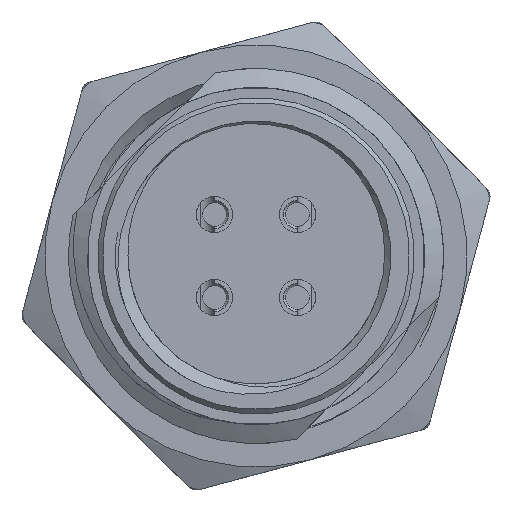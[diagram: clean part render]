
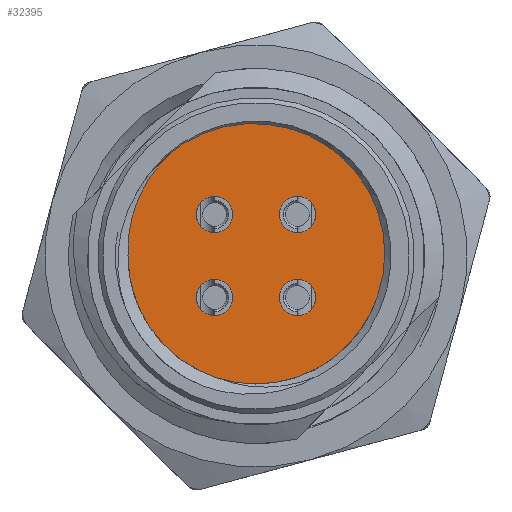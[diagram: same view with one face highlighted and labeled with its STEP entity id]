
A CAD part, left-side view. The second image highlights one B-rep face of the part: STEP entity #32395.
In plain terms, the highlighted planar face has unit normal (-1, 0, 0).
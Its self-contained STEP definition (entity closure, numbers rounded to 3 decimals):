
#10492=CARTESIAN_POINT('',(-19.5,2.63,5.126));
#10493=CARTESIAN_POINT('',(-19.5,2.716,5.076));
#10494=CARTESIAN_POINT('',(-19.5,2.886,4.973));
#10495=CARTESIAN_POINT('',(-19.5,3.131,4.805));
#10496=CARTESIAN_POINT('',(-19.5,3.367,4.625));
#10497=CARTESIAN_POINT('',(-19.5,3.593,4.433));
#10498=CARTESIAN_POINT('',(-19.5,3.808,4.231));
#10499=CARTESIAN_POINT('',(-19.5,4.012,4.018));
#10500=CARTESIAN_POINT('',(-19.5,4.204,3.795));
#10501=CARTESIAN_POINT('',(-19.5,4.385,3.562));
#10502=CARTESIAN_POINT('',(-19.5,4.552,3.321));
#10503=CARTESIAN_POINT('',(-19.5,4.706,3.073));
#10504=CARTESIAN_POINT('',(-19.5,4.847,2.817));
#10505=CARTESIAN_POINT('',(-19.5,4.975,2.554));
#10506=CARTESIAN_POINT('',(-19.5,5.088,2.286));
#10507=CARTESIAN_POINT('',(-19.5,5.186,2.013));
#10508=CARTESIAN_POINT('',(-19.5,5.271,1.735));
#10509=CARTESIAN_POINT('',(-19.5,5.34,1.454));
#10510=CARTESIAN_POINT('',(-19.5,5.395,1.171));
#10511=CARTESIAN_POINT('',(-19.5,5.434,0.885));
#10512=CARTESIAN_POINT('',(-19.5,5.459,0.598));
#10513=CARTESIAN_POINT('',(-19.5,5.468,0.311));
#10514=CARTESIAN_POINT('',(-19.5,5.464,0.12));
#10515=CARTESIAN_POINT('',(-19.5,5.46,0.025));
#10846=CARTESIAN_POINT('',(-19.5,-1.77,1.77));
#10847=DIRECTION('',(-1.,0.,0.));
#10848=DIRECTION('',(0.,1.,0.));
#10849=AXIS2_PLACEMENT_3D('',#10846,#10847,#10848);
#10895=CARTESIAN_POINT('',(-19.5,-1.77,1.77));
#10896=DIRECTION('',(-1.,0.,0.));
#10897=DIRECTION('',(0.,-1.,0.));
#10898=AXIS2_PLACEMENT_3D('',#10895,#10896,#10897);
#11055=CARTESIAN_POINT('',(-19.5,-1.77,-1.77));
#11056=DIRECTION('',(-1.,0.,0.));
#11057=DIRECTION('',(0.,1.,0.));
#11058=AXIS2_PLACEMENT_3D('',#11055,#11056,#11057);
#11104=CARTESIAN_POINT('',(-19.5,-1.77,-1.77));
#11105=DIRECTION('',(-1.,0.,0.));
#11106=DIRECTION('',(0.,-1.,0.));
#11107=AXIS2_PLACEMENT_3D('',#11104,#11105,#11106);
#11264=CARTESIAN_POINT('',(-19.5,1.77,-1.77));
#11265=DIRECTION('',(-1.,0.,0.));
#11266=DIRECTION('',(0.,-1.,0.));
#11267=AXIS2_PLACEMENT_3D('',#11264,#11265,#11266);
#11313=CARTESIAN_POINT('',(-19.5,1.77,-1.77));
#11314=DIRECTION('',(-1.,0.,0.));
#11315=DIRECTION('',(0.,1.,0.));
#11316=AXIS2_PLACEMENT_3D('',#11313,#11314,#11315);
#11473=CARTESIAN_POINT('',(-19.5,1.77,1.77));
#11474=DIRECTION('',(-1.,0.,0.));
#11475=DIRECTION('',(0.,-1.,0.));
#11476=AXIS2_PLACEMENT_3D('',#11473,#11474,#11475);
#11522=CARTESIAN_POINT('',(-19.5,1.77,1.77));
#11523=DIRECTION('',(-1.,0.,0.));
#11524=DIRECTION('',(0.,1.,0.));
#11525=AXIS2_PLACEMENT_3D('',#11522,#11523,#11524);
#11563=CARTESIAN_POINT('',(-19.5,0.,0.));
#11564=DIRECTION('',(-1.,0.,0.));
#11565=DIRECTION('',(0.,-0.89,-0.457));
#11566=AXIS2_PLACEMENT_3D('',#11563,#11564,#11565);
#11855=CARTESIAN_POINT('',(-19.5,-0.025,-5.46));
#11856=CARTESIAN_POINT('',(-19.5,-0.12,-5.464));
#11857=CARTESIAN_POINT('',(-19.5,-0.311,-5.468));
#11858=CARTESIAN_POINT('',(-19.5,-0.598,-5.459));
#11859=CARTESIAN_POINT('',(-19.5,-0.885,-5.434));
#11860=CARTESIAN_POINT('',(-19.5,-1.171,-5.395));
#11861=CARTESIAN_POINT('',(-19.5,-1.454,-5.34));
#11862=CARTESIAN_POINT('',(-19.5,-1.735,-5.271));
#11863=CARTESIAN_POINT('',(-19.5,-2.013,-5.186));
#11864=CARTESIAN_POINT('',(-19.5,-2.286,-5.088));
#11865=CARTESIAN_POINT('',(-19.5,-2.554,-4.975));
#11866=CARTESIAN_POINT('',(-19.5,-2.817,-4.847));
#11867=CARTESIAN_POINT('',(-19.5,-3.073,-4.706));
#11868=CARTESIAN_POINT('',(-19.5,-3.322,-4.552));
#11869=CARTESIAN_POINT('',(-19.5,-3.562,-4.385));
#11870=CARTESIAN_POINT('',(-19.5,-3.795,-4.204));
#11871=CARTESIAN_POINT('',(-19.5,-4.018,-4.012));
#11872=CARTESIAN_POINT('',(-19.5,-4.231,-3.808));
#11873=CARTESIAN_POINT('',(-19.5,-4.434,-3.593));
#11874=CARTESIAN_POINT('',(-19.5,-4.625,-3.367));
#11875=CARTESIAN_POINT('',(-19.5,-4.805,-3.131));
#11876=CARTESIAN_POINT('',(-19.5,-4.973,-2.886));
#11877=CARTESIAN_POINT('',(-19.5,-5.076,-2.716));
#11878=CARTESIAN_POINT('',(-19.5,-5.126,-2.63));
#14323=CARTESIAN_POINT('',(-19.5,0.,0.));
#14324=DIRECTION('',(-1.,0.,0.));
#14325=DIRECTION('',(0.,1.,0.005));
#14326=AXIS2_PLACEMENT_3D('',#14323,#14324,#14325);
#21060=VERTEX_POINT('',#10492);
#21061=VERTEX_POINT('',#10515);
#21066=VERTEX_POINT('',#11855);
#21067=VERTEX_POINT('',#11878);
#21091=CARTESIAN_POINT('',(-19.5,2.545,1.77));
#21092=CARTESIAN_POINT('',(-19.5,0.995,1.77));
#21093=VERTEX_POINT('',#21091);
#21094=VERTEX_POINT('',#21092);
#21095=CARTESIAN_POINT('',(-19.5,2.545,-1.77));
#21096=CARTESIAN_POINT('',(-19.5,0.995,-1.77));
#21097=VERTEX_POINT('',#21095);
#21098=VERTEX_POINT('',#21096);
#21099=CARTESIAN_POINT('',(-19.5,-2.545,-1.77));
#21100=CARTESIAN_POINT('',(-19.5,-0.995,-1.77));
#21101=VERTEX_POINT('',#21099);
#21102=VERTEX_POINT('',#21100);
#21103=CARTESIAN_POINT('',(-19.5,-2.545,1.77));
#21104=CARTESIAN_POINT('',(-19.5,-0.995,1.77));
#21105=VERTEX_POINT('',#21103);
#21106=VERTEX_POINT('',#21104);
#32357=CARTESIAN_POINT('',(-19.5,0.,0.));
#32358=DIRECTION('',(-1.,0.,0.));
#32359=DIRECTION('',(0.,1.,0.));
#32360=AXIS2_PLACEMENT_3D('',#32357,#32358,#32359);
#32361=PLANE('',#32360);
#32362=ORIENTED_EDGE('',*,*,#32281,.F.);
#32364=ORIENTED_EDGE('',*,*,#32363,.F.);
#32366=ORIENTED_EDGE('',*,*,#32365,.F.);
#32368=ORIENTED_EDGE('',*,*,#32367,.F.);
#32369=EDGE_LOOP('',(#32362,#32364,#32366,#32368));
#32370=FACE_OUTER_BOUND('',#32369,.F.);
#32372=ORIENTED_EDGE('',*,*,#32371,.T.);
#32374=ORIENTED_EDGE('',*,*,#32373,.T.);
#32375=EDGE_LOOP('',(#32372,#32374));
#32376=FACE_BOUND('',#32375,.F.);
#32378=ORIENTED_EDGE('',*,*,#32377,.T.);
#32380=ORIENTED_EDGE('',*,*,#32379,.T.);
#32381=EDGE_LOOP('',(#32378,#32380));
#32382=FACE_BOUND('',#32381,.F.);
#32384=ORIENTED_EDGE('',*,*,#32383,.T.);
#32386=ORIENTED_EDGE('',*,*,#32385,.T.);
#32387=EDGE_LOOP('',(#32384,#32386));
#32388=FACE_BOUND('',#32387,.F.);
#32390=ORIENTED_EDGE('',*,*,#32389,.T.);
#32392=ORIENTED_EDGE('',*,*,#32391,.T.);
#32393=EDGE_LOOP('',(#32390,#32392));
#32394=FACE_BOUND('',#32393,.F.);
#32395=ADVANCED_FACE('',(#32370,#32376,#32382,#32388,#32394),#32361,.T.);
#10516=B_SPLINE_CURVE_WITH_KNOTS('',3,(#10492,#10493,#10494,#10495,#10496,
#10497,#10498,#10499,#10500,#10501,#10502,#10503,#10504,#10505,#10506,#10507,
#10508,#10509,#10510,#10511,#10512,#10513,#10514,#10515),.UNSPECIFIED.,.F.,.F.,(
4,1,1,1,1,1,1,1,1,1,1,1,1,1,1,1,1,1,1,1,1,4),(0.,0.048,
0.095,0.143,0.19,0.238,
0.286,0.333,0.381,0.429,
0.476,0.524,0.571,0.619,
0.667,0.714,0.762,0.81,
0.857,0.905,0.952,1.),.UNSPECIFIED.);
#10850=CIRCLE('',#10849,0.775);
#10899=CIRCLE('',#10898,0.775);
#11059=CIRCLE('',#11058,0.775);
#11108=CIRCLE('',#11107,0.775);
#11268=CIRCLE('',#11267,0.775);
#11317=CIRCLE('',#11316,0.775);
#11477=CIRCLE('',#11476,0.775);
#11526=CIRCLE('',#11525,0.775);
#11567=CIRCLE('',#11566,5.761);
#11879=B_SPLINE_CURVE_WITH_KNOTS('',3,(#11855,#11856,#11857,#11858,#11859,
#11860,#11861,#11862,#11863,#11864,#11865,#11866,#11867,#11868,#11869,#11870,
#11871,#11872,#11873,#11874,#11875,#11876,#11877,#11878),.UNSPECIFIED.,.F.,.F.,(
4,1,1,1,1,1,1,1,1,1,1,1,1,1,1,1,1,1,1,1,1,4),(0.,0.048,
0.095,0.143,0.19,0.238,
0.286,0.333,0.381,0.429,
0.476,0.524,0.571,0.619,
0.667,0.714,0.762,0.81,
0.857,0.905,0.952,1.),.UNSPECIFIED.);
#14327=CIRCLE('',#14326,5.46);
#32281=EDGE_CURVE('',#21060,#21061,#10516,.T.);
#32363=EDGE_CURVE('',#21067,#21060,#11567,.T.);
#32365=EDGE_CURVE('',#21066,#21067,#11879,.T.);
#32367=EDGE_CURVE('',#21061,#21066,#14327,.T.);
#32371=EDGE_CURVE('',#21093,#21094,#11526,.T.);
#32373=EDGE_CURVE('',#21094,#21093,#11477,.T.);
#32377=EDGE_CURVE('',#21097,#21098,#11317,.T.);
#32379=EDGE_CURVE('',#21098,#21097,#11268,.T.);
#32383=EDGE_CURVE('',#21101,#21102,#11108,.T.);
#32385=EDGE_CURVE('',#21102,#21101,#11059,.T.);
#32389=EDGE_CURVE('',#21105,#21106,#10899,.T.);
#32391=EDGE_CURVE('',#21106,#21105,#10850,.T.);
